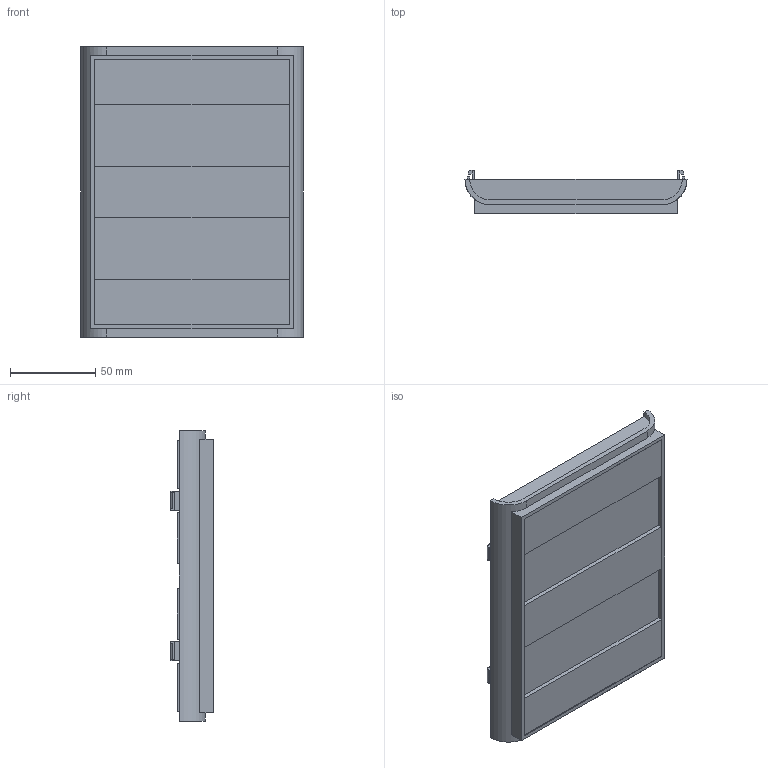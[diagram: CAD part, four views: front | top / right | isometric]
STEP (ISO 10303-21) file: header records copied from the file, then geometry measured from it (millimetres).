
FILE_DESCRIPTION (( 'STEP AP214' ), '1' );
FILE_NAME ('Cos PP107G.STEP', '2017-08-01T08:12:14', ( 'aaa' ), ( '' ), 'SwSTEP 2.0', 'SolidWorks 2013', '' );
FILE_SCHEMA (( 'AUTOMOTIVE_DESIGN' ));
Length unit declared in the file: millimetre
Products named in the file (1): Cos PP107G
Bounding box: 130 x 25.3 x 170 mm (x, y, z)
Volume: 79140.2 mm3; surface area: 67590.2 mm2
Topology: 1 solids, 1 shells, 196 faces, 504 edges, 324 vertices
Faces by surface type: plane 160, cylinder 24, cone 12
Entity records: 5898 total; most frequent: CARTESIAN_POINT 1025, ORIENTED_EDGE 1008, DIRECTION 982, EDGE_CURVE 504, VECTOR 420, LINE 420, VERTEX_POINT 324, AXIS2_PLACEMENT_3D 281
